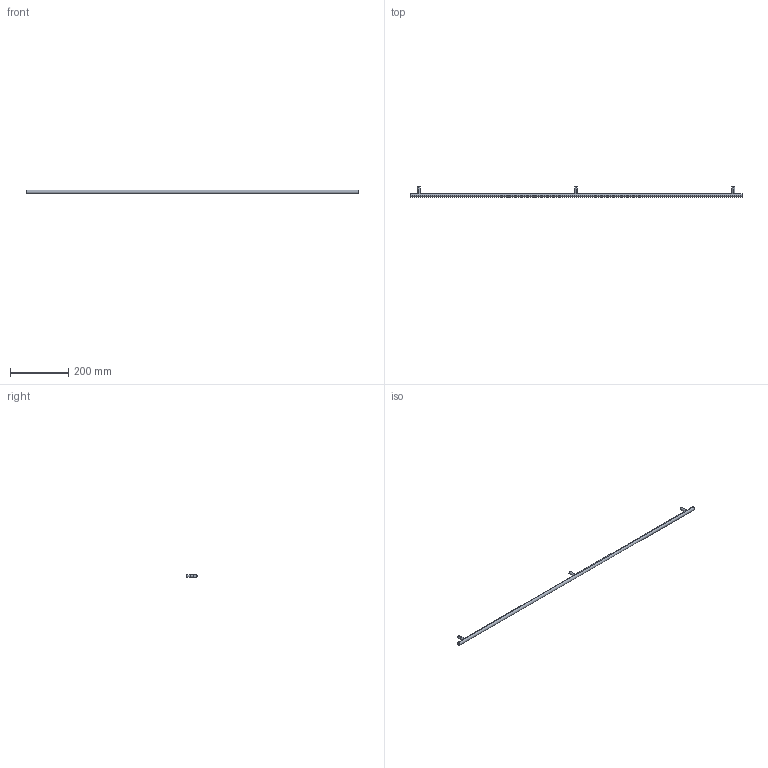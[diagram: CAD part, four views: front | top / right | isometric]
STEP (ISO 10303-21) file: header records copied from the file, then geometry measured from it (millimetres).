
FILE_DESCRIPTION( ( '' ), '1' );
FILE_NAME( 'C:/Documents and Settings/Sachin/Desktop/Sheet 10_1/stp/9070269.stp', '2013-10-22T06:25:27', ( '' ), ( '' ), ' ', ' ', ' ' );
FILE_SCHEMA( ( 'CONFIG_CONTROL_DESIGN' ) );
Length unit declared in the file: millimetre
Products named in the file (1): 1
Bounding box: 1140 x 35 x 12 mm (x, y, z)
Volume: 133780.2 mm3; surface area: 46024.3 mm2
Topology: 1 solids, 1 shells, 22 faces, 42 edges, 28 vertices
Faces by surface type: cylinder 14, plane 8
Entity records: 798 total; most frequent: CARTESIAN_POINT 291, DIRECTION 104, ORIENTED_EDGE 84, AXIS2_PLACEMENT_3D 45, EDGE_CURVE 42, EDGE_LOOP 28, VERTEX_POINT 28, ADVANCED_FACE 22
